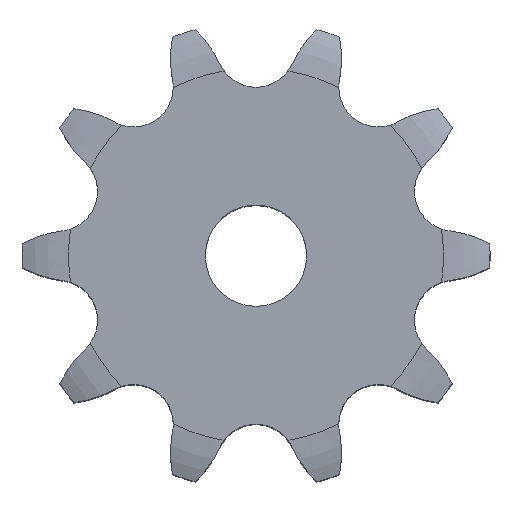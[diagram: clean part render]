
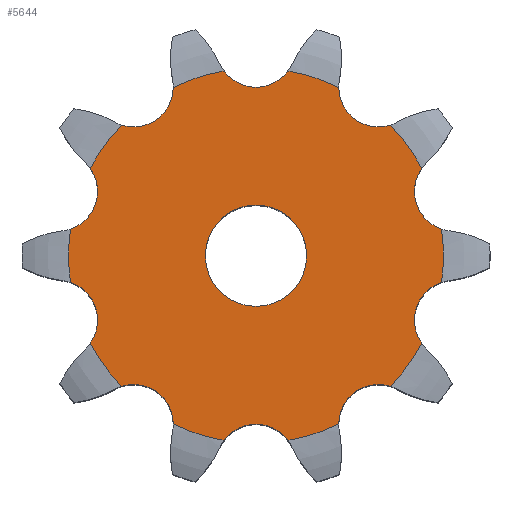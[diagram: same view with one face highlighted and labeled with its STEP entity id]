
A CAD part, top view. The second image highlights one B-rep face of the part: STEP entity #5644.
In plain terms, the highlighted planar face has unit normal (0, 0, 1).
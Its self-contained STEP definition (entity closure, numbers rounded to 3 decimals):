
#33=CARTESIAN_POINT('',(0.,0.,17.45));
#34=DIRECTION('',(0.,0.,-1.));
#35=DIRECTION('',(0.171,0.985,0.));
#36=AXIS2_PLACEMENT_3D('',#33,#34,#35);
#42=CARTESIAN_POINT('',(12.078,16.625,17.45));
#43=DIRECTION('',(0.,0.,1.));
#44=DIRECTION('',(-1.,-0.005,0.));
#45=AXIS2_PLACEMENT_3D('',#42,#43,#44);
#50=CARTESIAN_POINT('',(0.,0.,17.45));
#51=DIRECTION('',(0.,0.,-1.));
#52=DIRECTION('',(0.717,0.697,0.));
#53=AXIS2_PLACEMENT_3D('',#50,#51,#52);
#58=CARTESIAN_POINT('',(19.543,6.35,17.45));
#59=DIRECTION('',(0.,0.,1.));
#60=DIRECTION('',(-0.812,0.584,0.));
#61=AXIS2_PLACEMENT_3D('',#58,#59,#60);
#66=CARTESIAN_POINT('',(0.,0.,17.45));
#67=DIRECTION('',(0.,0.,-1.));
#68=DIRECTION('',(0.99,0.142,0.));
#69=AXIS2_PLACEMENT_3D('',#66,#67,#68);
#74=CARTESIAN_POINT('',(19.543,-6.35,17.45));
#75=DIRECTION('',(0.,0.,1.));
#76=DIRECTION('',(-0.314,0.95,0.));
#77=AXIS2_PLACEMENT_3D('',#74,#75,#76);
#82=CARTESIAN_POINT('',(0.,0.,17.45));
#83=DIRECTION('',(0.,0.,-1.));
#84=DIRECTION('',(0.884,-0.467,0.));
#85=AXIS2_PLACEMENT_3D('',#82,#83,#84);
#90=CARTESIAN_POINT('',(12.078,-16.625,17.45));
#91=DIRECTION('',(0.,0.,1.));
#92=DIRECTION('',(0.304,0.953,0.));
#93=AXIS2_PLACEMENT_3D('',#90,#91,#92);
#98=CARTESIAN_POINT('',(0.,0.,17.45));
#99=DIRECTION('',(0.,0.,-1.));
#100=DIRECTION('',(0.441,-0.897,0.));
#101=AXIS2_PLACEMENT_3D('',#98,#99,#100);
#106=CARTESIAN_POINT('',(0.,-20.549,17.45));
#107=DIRECTION('',(0.,0.,1.));
#108=DIRECTION('',(0.806,0.592,0.));
#109=AXIS2_PLACEMENT_3D('',#106,#107,#108);
#114=CARTESIAN_POINT('',(0.,0.,17.45));
#115=DIRECTION('',(0.,0.,-1.));
#116=DIRECTION('',(-0.171,-0.985,0.));
#117=AXIS2_PLACEMENT_3D('',#114,#115,#116);
#122=CARTESIAN_POINT('',(-12.078,-16.625,17.45));
#123=DIRECTION('',(0.,0.,1.));
#124=DIRECTION('',(1.,0.005,0.));
#125=AXIS2_PLACEMENT_3D('',#122,#123,#124);
#130=CARTESIAN_POINT('',(0.,0.,17.45));
#131=DIRECTION('',(0.,0.,-1.));
#132=DIRECTION('',(-0.717,-0.697,0.));
#133=AXIS2_PLACEMENT_3D('',#130,#131,#132);
#138=CARTESIAN_POINT('',(-19.543,-6.35,17.45));
#139=DIRECTION('',(0.,0.,1.));
#140=DIRECTION('',(0.812,-0.584,0.));
#141=AXIS2_PLACEMENT_3D('',#138,#139,#140);
#146=CARTESIAN_POINT('',(0.,0.,17.45));
#147=DIRECTION('',(0.,0.,-1.));
#148=DIRECTION('',(-0.99,-0.142,0.));
#149=AXIS2_PLACEMENT_3D('',#146,#147,#148);
#154=CARTESIAN_POINT('',(-19.543,6.35,17.45));
#155=DIRECTION('',(0.,0.,1.));
#156=DIRECTION('',(0.314,-0.95,0.));
#157=AXIS2_PLACEMENT_3D('',#154,#155,#156);
#162=CARTESIAN_POINT('',(0.,0.,17.45));
#163=DIRECTION('',(0.,0.,-1.));
#164=DIRECTION('',(-0.884,0.467,0.));
#165=AXIS2_PLACEMENT_3D('',#162,#163,#164);
#170=CARTESIAN_POINT('',(-12.078,16.625,17.45));
#171=DIRECTION('',(0.,0.,1.));
#172=DIRECTION('',(-0.304,-0.953,0.));
#173=AXIS2_PLACEMENT_3D('',#170,#171,#172);
#178=CARTESIAN_POINT('',(0.,0.,17.45));
#179=DIRECTION('',(0.,0.,-1.));
#180=DIRECTION('',(-0.441,0.897,0.));
#181=AXIS2_PLACEMENT_3D('',#178,#179,#180);
#186=CARTESIAN_POINT('',(0.,20.549,17.45));
#187=DIRECTION('',(0.,0.,1.));
#188=DIRECTION('',(-0.806,-0.592,0.));
#189=AXIS2_PLACEMENT_3D('',#186,#187,#188);
#194=CARTESIAN_POINT('',(0.,0.,17.45));
#195=DIRECTION('',(0.,0.,1.));
#196=DIRECTION('',(1.,0.,0.));
#197=AXIS2_PLACEMENT_3D('',#194,#195,#196);
#202=CARTESIAN_POINT('',(0.,0.,17.45));
#203=DIRECTION('',(0.,0.,1.));
#204=DIRECTION('',(-1.,0.,0.));
#205=AXIS2_PLACEMENT_3D('',#202,#203,#204);
#4972=CARTESIAN_POINT('',(3.155,18.233,17.45));
#4973=CARTESIAN_POINT('',(8.165,16.606,17.45));
#4974=VERTEX_POINT('',#4972);
#4975=VERTEX_POINT('',#4973);
#4976=CARTESIAN_POINT('',(13.27,12.896,17.45));
#4977=CARTESIAN_POINT('',(16.366,8.635,17.45));
#4978=VERTEX_POINT('',#4976);
#4979=VERTEX_POINT('',#4977);
#4980=CARTESIAN_POINT('',(18.316,2.634,17.45));
#4981=CARTESIAN_POINT('',(18.316,-2.634,17.45));
#4982=VERTEX_POINT('',#4980);
#4983=VERTEX_POINT('',#4981);
#4984=CARTESIAN_POINT('',(16.366,-8.635,17.45));
#4985=CARTESIAN_POINT('',(13.27,-12.896,17.45));
#4986=VERTEX_POINT('',#4984);
#4987=VERTEX_POINT('',#4985);
#4988=CARTESIAN_POINT('',(-3.155,-18.233,17.45));
#4989=CARTESIAN_POINT('',(-8.165,-16.606,17.45));
#4990=VERTEX_POINT('',#4988);
#4991=VERTEX_POINT('',#4989);
#4992=CARTESIAN_POINT('',(-13.27,-12.896,17.45));
#4993=CARTESIAN_POINT('',(-16.366,-8.635,17.45));
#4994=VERTEX_POINT('',#4992);
#4995=VERTEX_POINT('',#4993);
#4996=CARTESIAN_POINT('',(-18.316,-2.634,17.45));
#4997=CARTESIAN_POINT('',(-18.316,2.634,17.45));
#4998=VERTEX_POINT('',#4996);
#4999=VERTEX_POINT('',#4997);
#5000=CARTESIAN_POINT('',(-16.366,8.635,17.45));
#5001=CARTESIAN_POINT('',(-13.27,12.896,17.45));
#5002=VERTEX_POINT('',#5000);
#5003=VERTEX_POINT('',#5001);
#5062=CARTESIAN_POINT('',(8.165,-16.606,17.45));
#5063=VERTEX_POINT('',#5062);
#5066=CARTESIAN_POINT('',(3.155,-18.233,17.45));
#5067=VERTEX_POINT('',#5066);
#5070=CARTESIAN_POINT('',(-8.165,16.606,17.45));
#5071=CARTESIAN_POINT('',(-3.155,18.233,17.45));
#5072=VERTEX_POINT('',#5070);
#5073=VERTEX_POINT('',#5071);
#5082=CARTESIAN_POINT('',(5.,0.,17.45));
#5083=CARTESIAN_POINT('',(-5.,0.,17.45));
#5084=VERTEX_POINT('',#5082);
#5085=VERTEX_POINT('',#5083);
#5591=CARTESIAN_POINT('',(0.,0.,17.45));
#5592=DIRECTION('',(0.,0.,1.));
#5593=DIRECTION('',(1.,0.,0.));
#5594=AXIS2_PLACEMENT_3D('',#5591,#5592,#5593);
#5595=PLANE('',#5594);
#5597=ORIENTED_EDGE('',*,*,#5596,.T.);
#5599=ORIENTED_EDGE('',*,*,#5598,.T.);
#5601=ORIENTED_EDGE('',*,*,#5600,.T.);
#5603=ORIENTED_EDGE('',*,*,#5602,.T.);
#5605=ORIENTED_EDGE('',*,*,#5604,.T.);
#5607=ORIENTED_EDGE('',*,*,#5606,.T.);
#5609=ORIENTED_EDGE('',*,*,#5608,.T.);
#5611=ORIENTED_EDGE('',*,*,#5610,.T.);
#5613=ORIENTED_EDGE('',*,*,#5612,.T.);
#5615=ORIENTED_EDGE('',*,*,#5614,.T.);
#5617=ORIENTED_EDGE('',*,*,#5616,.T.);
#5619=ORIENTED_EDGE('',*,*,#5618,.T.);
#5621=ORIENTED_EDGE('',*,*,#5620,.T.);
#5623=ORIENTED_EDGE('',*,*,#5622,.T.);
#5625=ORIENTED_EDGE('',*,*,#5624,.T.);
#5627=ORIENTED_EDGE('',*,*,#5626,.T.);
#5629=ORIENTED_EDGE('',*,*,#5628,.T.);
#5631=ORIENTED_EDGE('',*,*,#5630,.T.);
#5633=ORIENTED_EDGE('',*,*,#5632,.T.);
#5635=ORIENTED_EDGE('',*,*,#5634,.T.);
#5636=EDGE_LOOP('',(#5597,#5599,#5601,#5603,#5605,#5607,#5609,#5611,#5613,#5615,
#5617,#5619,#5621,#5623,#5625,#5627,#5629,#5631,#5633,#5635));
#5637=FACE_OUTER_BOUND('',#5636,.F.);
#5639=ORIENTED_EDGE('',*,*,#5638,.T.);
#5641=ORIENTED_EDGE('',*,*,#5640,.T.);
#5642=EDGE_LOOP('',(#5639,#5641));
#5643=FACE_BOUND('',#5642,.F.);
#5644=ADVANCED_FACE('',(#5637,#5643),#5595,.T.);
#37=CIRCLE('',#36,18.504);
#46=CIRCLE('',#45,3.914);
#54=CIRCLE('',#53,18.504);
#62=CIRCLE('',#61,3.914);
#70=CIRCLE('',#69,18.504);
#78=CIRCLE('',#77,3.914);
#86=CIRCLE('',#85,18.504);
#94=CIRCLE('',#93,3.914);
#102=CIRCLE('',#101,18.504);
#110=CIRCLE('',#109,3.914);
#118=CIRCLE('',#117,18.504);
#126=CIRCLE('',#125,3.914);
#134=CIRCLE('',#133,18.504);
#142=CIRCLE('',#141,3.914);
#150=CIRCLE('',#149,18.504);
#158=CIRCLE('',#157,3.914);
#166=CIRCLE('',#165,18.504);
#174=CIRCLE('',#173,3.914);
#182=CIRCLE('',#181,18.504);
#190=CIRCLE('',#189,3.914);
#198=CIRCLE('',#197,5.);
#206=CIRCLE('',#205,5.);
#5596=EDGE_CURVE('',#4974,#4975,#37,.T.);
#5598=EDGE_CURVE('',#4975,#4978,#46,.T.);
#5600=EDGE_CURVE('',#4978,#4979,#54,.T.);
#5602=EDGE_CURVE('',#4979,#4982,#62,.T.);
#5604=EDGE_CURVE('',#4982,#4983,#70,.T.);
#5606=EDGE_CURVE('',#4983,#4986,#78,.T.);
#5608=EDGE_CURVE('',#4986,#4987,#86,.T.);
#5610=EDGE_CURVE('',#4987,#5063,#94,.T.);
#5612=EDGE_CURVE('',#5063,#5067,#102,.T.);
#5614=EDGE_CURVE('',#5067,#4990,#110,.T.);
#5616=EDGE_CURVE('',#4990,#4991,#118,.T.);
#5618=EDGE_CURVE('',#4991,#4994,#126,.T.);
#5620=EDGE_CURVE('',#4994,#4995,#134,.T.);
#5622=EDGE_CURVE('',#4995,#4998,#142,.T.);
#5624=EDGE_CURVE('',#4998,#4999,#150,.T.);
#5626=EDGE_CURVE('',#4999,#5002,#158,.T.);
#5628=EDGE_CURVE('',#5002,#5003,#166,.T.);
#5630=EDGE_CURVE('',#5003,#5072,#174,.T.);
#5632=EDGE_CURVE('',#5072,#5073,#182,.T.);
#5634=EDGE_CURVE('',#5073,#4974,#190,.T.);
#5638=EDGE_CURVE('',#5084,#5085,#198,.T.);
#5640=EDGE_CURVE('',#5085,#5084,#206,.T.);
